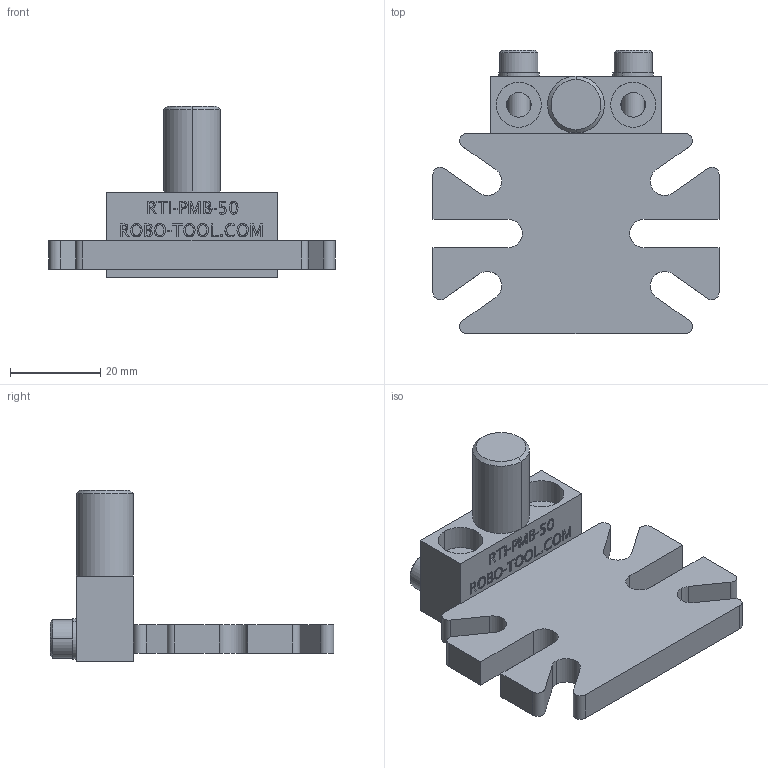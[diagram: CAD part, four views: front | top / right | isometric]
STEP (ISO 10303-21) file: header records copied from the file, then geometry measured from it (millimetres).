
FILE_DESCRIPTION (( 'STEP AP214' ), '1' );
FILE_NAME ('RTI-PGM-50-GMB-250.STEP', '2013-10-22T14:34:57', ( 'user' ), ( '' ), 'SwSTEP 2.0', 'SolidWorks 2009', '' );
FILE_SCHEMA (( 'AUTOMOTIVE_DESIGN' ));
Length unit declared in the file: inch
Products named in the file (5): RTI-GMB-250; RTI-PMB-50; M5 WASHER; M5 S.H.C.S._M5x20mm; RTI-PGM-50-GMB-250
Assembly tree (6 placements, depth 2):
  RTI-PGM-50-GMB-250
    RTI-PMB-50
    M5 S.H.C.S._M5x20mm  x2
    RTI-GMB-250
    M5 WASHER  x2
Bounding box: 63.5 x 62.9 x 38.1 mm (x, y, z)
Volume: 24036.8 mm3; surface area: 12927.1 mm2
Topology: 6 solids, 6 shells, 691 faces, 1786 edges, 1184 vertices
Faces by surface type: plane 423, bspline 198, cylinder 56, cone 14
Entity records: 40367 total; most frequent: CARTESIAN_POINT 17982, ORIENTED_EDGE 3464, DIRECTION 2370, EDGE_CURVE 1732, VECTOR 1226, LINE 1226, VERTEX_POINT 1152, EDGE_LOOP 760
